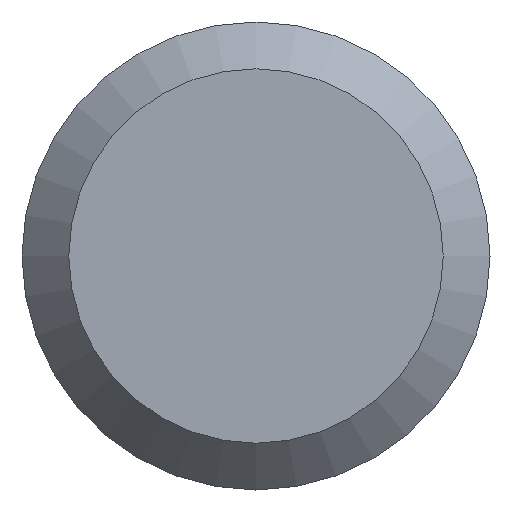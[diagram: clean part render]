
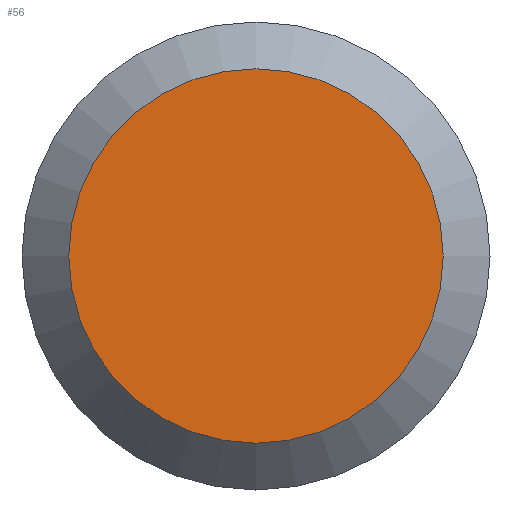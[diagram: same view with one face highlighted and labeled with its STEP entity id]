
A CAD part, left-side view. The second image highlights one B-rep face of the part: STEP entity #56.
In plain terms, the highlighted planar face has unit normal (-1, 0, 0).
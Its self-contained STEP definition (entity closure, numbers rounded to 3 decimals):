
#12 = CARTESIAN_POINT ( 'NONE',  ( 0., 0., 0. ) ) ;
#16 = DIRECTION ( 'NONE',  ( -1., 0., 0. ) ) ;
#30 = VERTEX_POINT ( 'NONE', #98 ) ;
#34 = CARTESIAN_POINT ( 'NONE',  ( 0., 5., 0. ) ) ;
#39 = DIRECTION ( 'NONE',  ( 0., 0., -1. ) ) ;
#56 = ADVANCED_FACE ( 'NONE', ( #168 ), #60, .F. ) ;
#60 = PLANE ( 'NONE',  #78 ) ;
#61 = CIRCLE ( 'NONE', #197, 4. ) ;
#67 = DIRECTION ( 'NONE',  ( 0., 0., -1. ) ) ;
#78 = AXIS2_PLACEMENT_3D ( 'NONE', #34, #142, #67 ) ;
#82 = EDGE_LOOP ( 'NONE', ( #172 ) ) ;
#83 = EDGE_CURVE ( 'NONE', #30, #30, #61, .T. ) ;
#98 = CARTESIAN_POINT ( 'NONE',  ( 0., 0., -4. ) ) ;
#142 = DIRECTION ( 'NONE',  ( 1., 0., 0. ) ) ;
#168 = FACE_OUTER_BOUND ( 'NONE', #82, .T. ) ;
#172 = ORIENTED_EDGE ( 'NONE', *, *, #83, .T. ) ;
#197 = AXIS2_PLACEMENT_3D ( 'NONE', #12, #16, #39 ) ;
